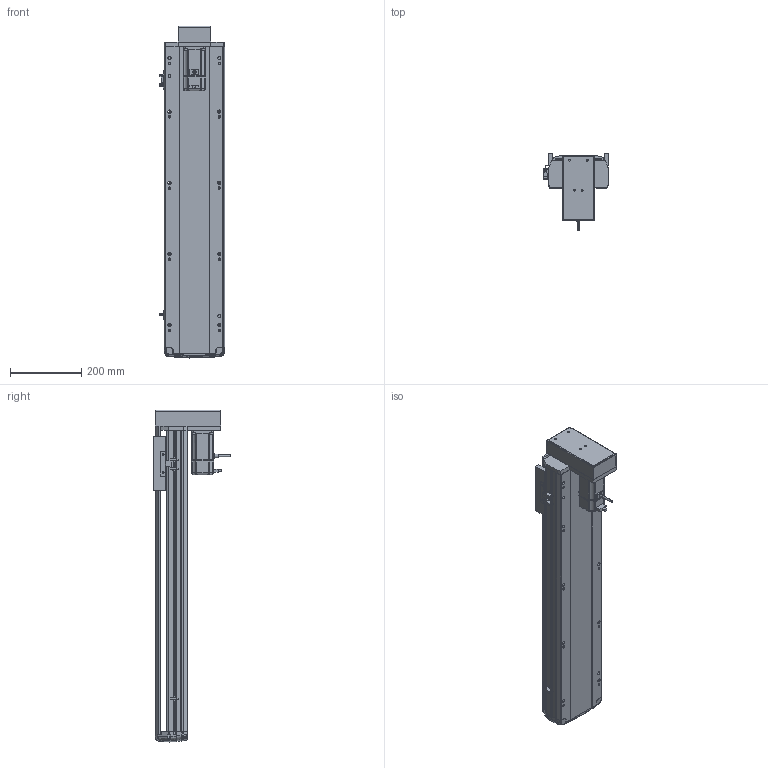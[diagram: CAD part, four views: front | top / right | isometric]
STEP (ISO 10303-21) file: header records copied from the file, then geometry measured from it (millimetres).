
FILE_DESCRIPTION (( 'STEP AP214' ), '1' );
FILE_NAME ('RTH17-XX-650-M-M40-C4.STEP', '2025-10-24T09:06:32', ( '' ), ( '' ), 'SwSTEP 2.0', 'SolidWorks 2018', '' );
FILE_SCHEMA (( 'AUTOMOTIVE_DESIGN' ));
Length unit declared in the file: millimetre
Products named in the file (10): N_RTH-BL-012 感应片(外置)^RTH17-XX-XX-M-M40-C4（方程式）; N_RTH17-M-008-P40电机安装板下折^RTH17-XX-XX-M-M40-C4（方程式）; N_RTH17-GY-001P^RTH17-XX-XX-M-M40-C4（方程式）; N_RTH17-M-007上盖^RTH17-XX-XX-M-M40-C4（方程式）; N_RTH17-M-018盖子^RTH17-XX-XX-M-M40-C4（方程式）; N_OMRON EE-SX672 換覜ん^RTH17-XX-XX-M-M40-C4ㄗ源最宒ㄘ; N_RTH17-E-004丝杆螺母连接座^RTH17-XX-XX-M-M40-C4（方程式）; N_RTH17-M-011底座^RTH17-XX-XX-M-M40-C4（方程式）; RTH17-XX-650-M-M40-C4; N_M40^RTH17-XX-XX-M-M40-C4（方程式）
Assembly tree (11 placements, depth 2):
  RTH17-XX-650-M-M40-C4
    N_RTH17-M-011底座^RTH17-XX-XX-M-M40-C4（方程式）
    N_RTH17-M-007上盖^RTH17-XX-XX-M-M40-C4（方程式）
    N_M40^RTH17-XX-XX-M-M40-C4（方程式）
    N_OMRON EE-SX672 換覜ん^RTH17-XX-XX-M-M40-C4ㄗ源最宒ㄘ  x3
    N_RTH-BL-012 感应片(外置)^RTH17-XX-XX-M-M40-C4（方程式）
    N_RTH17-M-008-P40电机安装板下折^RTH17-XX-XX-M-M40-C4（方程式）
    N_RTH17-M-018盖子^RTH17-XX-XX-M-M40-C4（方程式）
    N_RTH17-E-004丝杆螺母连接座^RTH17-XX-XX-M-M40-C4（方程式）
    N_RTH17-GY-001P^RTH17-XX-XX-M-M40-C4（方程式）
Bounding box: 183.5 x 219 x 933.19 mm (x, y, z)
Volume: 7457061.8 mm3; surface area: 1086909.9 mm2
Topology: 10 solids, 12 shells, 1647 faces, 4590 edges, 2992 vertices
Faces by surface type: plane 830, cylinder 450, bspline 330, cone 28, torus 9
Entity records: 47948 total; most frequent: CARTESIAN_POINT 19406, ORIENTED_EDGE 6204, DIRECTION 5110, EDGE_CURVE 3106, VERTEX_POINT 2028, LINE 1756, VECTOR 1756, AXIS2_PLACEMENT_3D 1677
